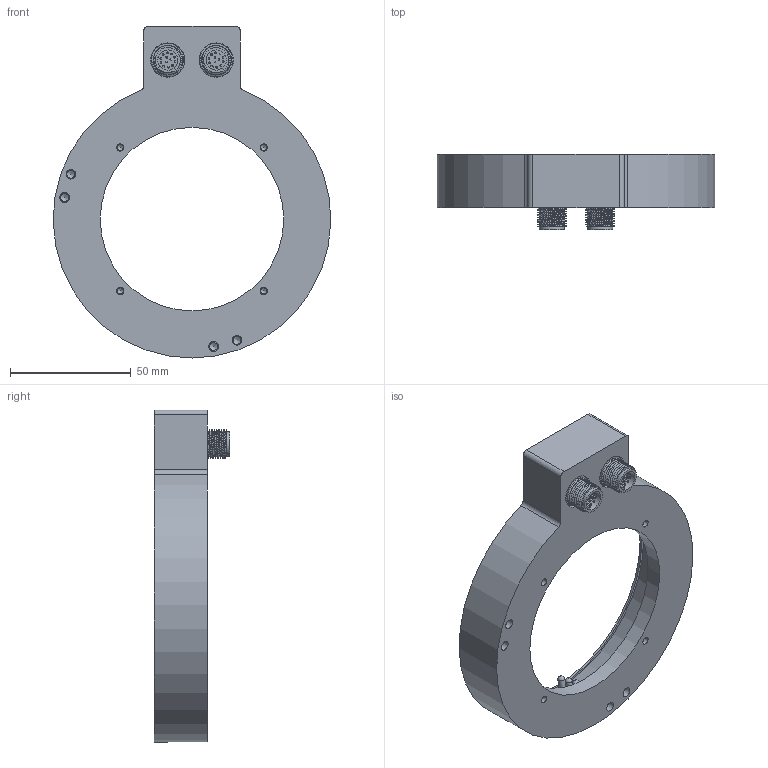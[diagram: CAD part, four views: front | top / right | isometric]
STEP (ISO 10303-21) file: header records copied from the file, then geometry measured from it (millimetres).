
FILE_DESCRIPTION(/* description */ (''),/* implementation_level */ '2;1');
FILE_NAME(/* name */ 'C:\#Vault-WorkDir\Konstruktions-Dokumente\Projekte\Zubehör allgemein\Falcon Beleuchtungen\153-13533_LM 100 xWK-24Q4-2L12.stp',/* time_stamp */ '2018-07-26T10:50:02+02:00',/* author */ ('SensoPart'),/* organization */ ('SensoPart'),/* preprocessor_version */ 'ST-DEVELOPER v17',/* originating_system */ 'Autodesk Inventor 2018',/* authorisation */ '');
FILE_SCHEMA (('AUTOMOTIVE_DESIGN { 1 0 10303 214 3 1 1 }'));
Length unit declared in the file: millimetre
Products named in the file (1): GH-ENG-0026323_Shrinkwrap_1
Bounding box: 114.98 x 31.3 x 137.5 mm (x, y, z)
Volume: 110992.9 mm3; surface area: 35586.3 mm2
Topology: 9 solids, 11 shells, 380 faces, 1105 edges, 818 vertices
Faces by surface type: cylinder 178, plane 112, sphere 54, cone 20, bspline 14, torus 2
Full cylindrical faces by diameter (mm): 0.5 x20, 0.7 x48, 1 x2, 1.2 x24, 2.5 x4, 2.9 x6, 3 x4, 3.2 x6, 3.3 x4, 4 x4, 8.4 x2, 10 x2, 10.4 x2, 12 x16, 14 x10, 14.2 x2, 76 x1, 90.4 x1, 97 x1
Entity records: 18590 total; most frequent: CARTESIAN_POINT 8104, DIRECTION 2349, ORIENTED_EDGE 2086, EDGE_CURVE 1043, AXIS2_PLACEMENT_3D 1043, VERTEX_POINT 818, CIRCLE 662, EDGE_LOOP 515
